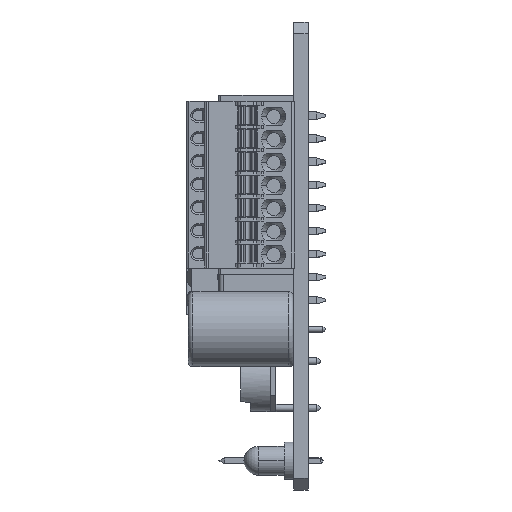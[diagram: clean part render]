
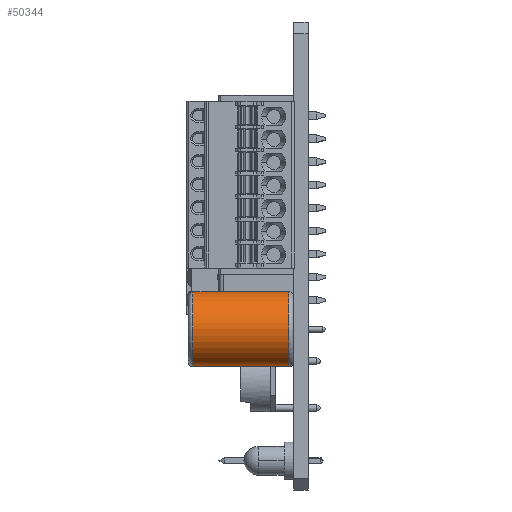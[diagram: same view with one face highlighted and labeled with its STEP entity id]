
A CAD part, left-side view. The second image highlights one B-rep face of the part: STEP entity #50344.
In plain terms, the highlighted cylindrical face has radius 4.064 mm (diameter 8.128 mm), a partial arc.
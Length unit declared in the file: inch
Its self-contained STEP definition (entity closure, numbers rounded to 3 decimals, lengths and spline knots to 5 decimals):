
#600 = EDGE_CURVE ( 'NONE', #63431, #70962, #53073, .T. ) ;
#4708 = LINE ( 'NONE', #38257, #92754 ) ;
#5031 = EDGE_CURVE ( 'NONE', #66268, #52689, #17025, .T. ) ;
#5094 = EDGE_CURVE ( 'NONE', #63431, #52689, #4708, .T. ) ;
#5684 = AXIS2_PLACEMENT_3D ( 'NONE', #57434, #91120, #15599 ) ;
#7447 = ORIENTED_EDGE ( 'NONE', *, *, #26132, .T. ) ;
#12667 = ORIENTED_EDGE ( 'NONE', *, *, #5031, .T. ) ;
#15599 = DIRECTION ( 'NONE',  ( 0., 0., 1. ) ) ;
#17025 = CIRCLE ( 'NONE', #78639, 0.16 ) ;
#19195 = CARTESIAN_POINT ( 'NONE',  ( 0., 0.02, -0.16 ) ) ;
#21014 = EDGE_LOOP ( 'NONE', ( #57860, #53496, #7447, #12667 ) ) ;
#21049 = DIRECTION ( 'NONE',  ( 0., -1., 0. ) ) ;
#21173 = DIRECTION ( 'NONE',  ( 0., 1., 0. ) ) ;
#26132 = EDGE_CURVE ( 'NONE', #70962, #66268, #37952, .T. ) ;
#37355 = CARTESIAN_POINT ( 'NONE',  ( 0., 0.43, -0.16 ) ) ;
#37952 = LINE ( 'NONE', #71626, #39004 ) ;
#38257 = CARTESIAN_POINT ( 'NONE',  ( 0., 0.45, 0.16 ) ) ;
#39004 = VECTOR ( 'NONE', #105358, 39.37008 ) ;
#40751 = AXIS2_PLACEMENT_3D ( 'NONE', #96608, #21049, #54662 ) ;
#50344 = ADVANCED_FACE ( 'NONE', ( #52054 ), #85739, .T. ) ;
#52054 = FACE_OUTER_BOUND ( 'NONE', #21014, .T. ) ;
#52689 = VERTEX_POINT ( 'NONE', #105897 ) ;
#53073 = CIRCLE ( 'NONE', #5684, 0.16 ) ;
#53496 = ORIENTED_EDGE ( 'NONE', *, *, #600, .T. ) ;
#54662 = DIRECTION ( 'NONE',  ( 0., 0., -1. ) ) ;
#54794 = DIRECTION ( 'NONE',  ( 0., 0., 1. ) ) ;
#57434 = CARTESIAN_POINT ( 'NONE',  ( 0., 0.43, 0. ) ) ;
#57860 = ORIENTED_EDGE ( 'NONE', *, *, #5094, .F. ) ;
#63431 = VERTEX_POINT ( 'NONE', #93202 ) ;
#66268 = VERTEX_POINT ( 'NONE', #19195 ) ;
#70962 = VERTEX_POINT ( 'NONE', #37355 ) ;
#71626 = CARTESIAN_POINT ( 'NONE',  ( 0., 0.45, -0.16 ) ) ;
#71932 = DIRECTION ( 'NONE',  ( 0., -1., 0. ) ) ;
#78639 = AXIS2_PLACEMENT_3D ( 'NONE', #96748, #21173, #54794 ) ;
#85739 = CYLINDRICAL_SURFACE ( 'NONE', #40751, 0.16 ) ;
#91120 = DIRECTION ( 'NONE',  ( 0., -1., 0. ) ) ;
#92754 = VECTOR ( 'NONE', #71932, 39.37008 ) ;
#93202 = CARTESIAN_POINT ( 'NONE',  ( 0., 0.43, 0.16 ) ) ;
#96608 = CARTESIAN_POINT ( 'NONE',  ( 0., 0.45, 0. ) ) ;
#96748 = CARTESIAN_POINT ( 'NONE',  ( 0., 0.02, 0. ) ) ;
#105358 = DIRECTION ( 'NONE',  ( 0., -1., 0. ) ) ;
#105897 = CARTESIAN_POINT ( 'NONE',  ( 0., 0.02, 0.16 ) ) ;
